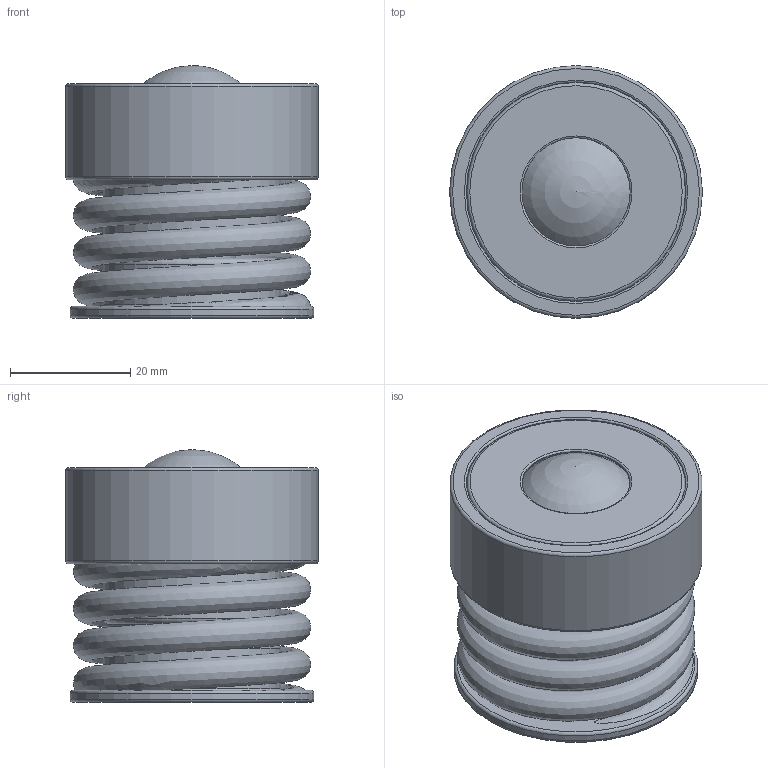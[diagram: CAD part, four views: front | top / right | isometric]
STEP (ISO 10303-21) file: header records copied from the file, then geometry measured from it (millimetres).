
FILE_DESCRIPTION(/* description */ (''),/* implementation_level */ '2;1');
FILE_NAME(/* name */ 'Z:\80-CAD共有ファイル\製品3D\X2\30C730FC30BF\X0\\08-IS-BK(BM)\IS-25BK-08.stp',/* time_stamp */ '2015-01-06T15:59:35+09:00',/* author */ ('yamaki'),/* organization */ (''),/* preprocessor_version */ 'ST-DEVELOPER v15.6',/* originating_system */ 'Autodesk Inventor 2015',/* authorisation */ '');
FILE_SCHEMA (('AUTOMOTIVE_DESIGN { 1 0 10303 214 3 1 1 }'));
Length unit declared in the file: millimetre
Products named in the file (4): 0808AT-01; 0808AT-02; 0808AT-03; 0808AA
Bounding box: 42 x 42 x 42 mm (x, y, z)
Volume: 41946 mm3; surface area: 18367 mm2
Topology: 3 solids, 3 shells, 64 faces, 126 edges, 79 vertices
Faces by surface type: plane 23, cone 15, cylinder 13, torus 11, sphere 1, bspline 1
Full cylindrical faces by diameter (mm): 6 x1, 14.5 x1, 14.7 x1, 18 x1, 22.5 x1, 23.5 x1, 25 x1, 29.5 x2, 36.3 x1, 36.5 x1, 40.5 x1, 42 x1
Entity records: 2352 total; most frequent: CARTESIAN_POINT 1111, DIRECTION 252, ORIENTED_EDGE 188, AXIS2_PLACEMENT_3D 123, EDGE_LOOP 105, EDGE_CURVE 94, VERTEX_POINT 75, FACE_OUTER_BOUND 64
